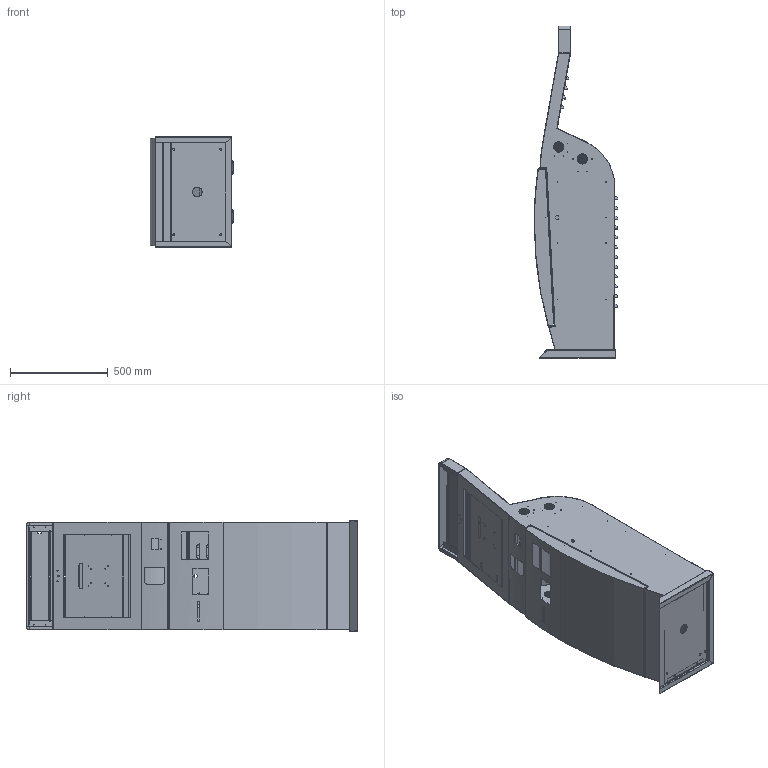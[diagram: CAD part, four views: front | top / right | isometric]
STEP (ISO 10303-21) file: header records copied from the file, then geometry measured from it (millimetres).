
FILE_DESCRIPTION(('STEP AP214'),'1');
FILE_NAME('Assemblage tolerie.stp','2021-08-05T08:45:46',(' '),(' '),'Spatial InterOp 3D',' ',' ');
FILE_SCHEMA(('AUTOMOTIVE_DESIGN { 1 0 10303 214 1 1 1 1 }'));
Length unit declared in the file: metre
Products named in the file (26): Assemblage tolerie; Solide16; Solide19; Solide23; Solide109; Solide130; Solide131; Solide5; Solide1; Solide10; Solide11; Solide12; Solide4; Solide14; Solide8; Solide9; Solide6; Solide3; Solide15; Solide7; Solide2; Solide22; Solide17; Solide108; Solide128; Solide129
Assembly tree (25 placements, depth 2):
  Assemblage tolerie
    Solide16
    Solide19
    Solide23
    Solide109
    Solide130
    Solide131
    Solide5
    Solide1
    Solide10
    Solide11
    Solide12
    Solide4
    Solide14
    Solide8
    Solide9
    Solide6
    Solide3
    Solide15
    Solide7
    Solide2
    Solide22
    Solide17
    Solide108
    Solide128
    Solide129
Bounding box: 427.05 x 1694.74 x 563 mm (x, y, z)
Volume: 5061231.4 mm3; surface area: 7434851.1 mm2
Topology: 25 solids, 25 shells, 3280 faces, 9081 edges, 5723 vertices
Faces by surface type: plane 1726, cylinder 1172, torus 128, sphere 128, bspline 124, extrusion 2
Entity records: 111710 total; most frequent: CARTESIAN_POINT 24996, ORIENTED_EDGE 17906, DIRECTION 17782, EDGE_CURVE 8953, AXIS2_PLACEMENT_3D 6067, VERTEX_POINT 5723, VECTOR 5648, LINE 5646
